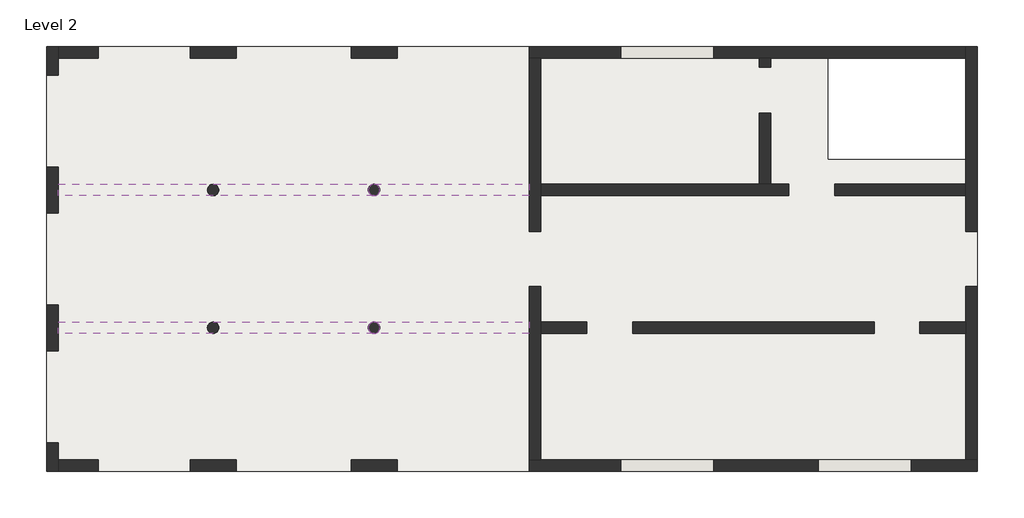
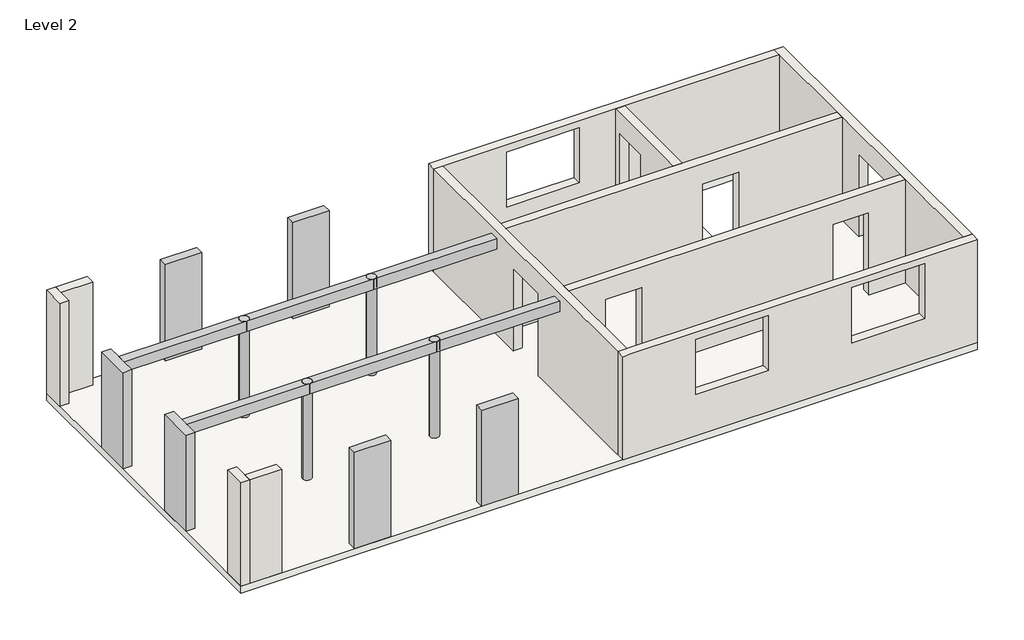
# One storey: 11 walls, 10 columns, 4 beams, 1 slab.
"""IFC4 building model written with IfcOpenShell, lengths in millimetres."""

from ifc_helpers import new_model, si_unit, point, frame, frame_2d, origin, place, context, project, spatial, polyline, circle_curve, trimmed, segment, composite_curve, outline, extrude, faceted_brep, element, save
from ifc_brep_helpers import plane_surface, cylinder_surface, revolved_surface, advanced_brep

model = new_model("IFC4")

# Units and contexts
model_context = context("Model", 3, world=origin())
ifc_project = project(units=[si_unit("LENGTHUNIT", "METRE", prefix="MILLI")], contexts=[model_context])

# Site, building, storey
site = spatial("IfcSite", under=ifc_project)
building = spatial("IfcBuilding", under=site)
storey = spatial("IfcBuildingStorey", under=building, Name="Level 2", Elevation=3000.0)

# Beams
placement = place(None, origin())
element("IfcBeam", 1, ObjectType="M_Concrete-Rectangular Beam : 25/50 cm", at=placement, inside=storey, context=model_context, shape_type="AdvancedBrep", body=[
    advanced_brep(
    [(-10243.1210397, -3913.8455619, 5500.0), (-6743.1210397, -3913.8455619, 5500.0), (-6743.1210397, -3913.8455619, 5800.0), (-13618.1210397, -3913.8455619, 5800.0), (-13618.1210397, -3913.8455619, 5500.0), (-10118.1210397, -3788.8455619, 5500.0), (-10243.1210397, -3663.8455619, 5500.0), (-6743.1210397, -3663.8455619, 5500.0), (-6868.1210397, -3788.8455619, 5500.0), (-13618.1210397, -3663.8455619, 5500.0), (-13618.1210397, -3663.8455619, 5800.0), (-6743.1210397, -3663.8455619, 5800.0), (-10118.1210397, -3788.8455619, 5800.0), (-10368.1210397, -3788.8455619, 5800.0), (-10368.1210397, -3788.8455619, 5500.0), (-6868.1210397, -3788.8455619, 5800.0)],
    [
        (0, 1),
        (1, 2),
        (2, 3),
        (3, 4),
        (4, 0),
        (5, 6, circle_curve(frame((-10243.1210397, -3788.8455619, 5500.0), z_axis=(0.0, 0.0, 1.0), x_axis=(1.0, 0.0, 0.0)), 125.0)),
        (6, 7),
        (7, 8, circle_curve(frame((-6743.1210397, -3788.8455619, 5500.0), z_axis=(0.0, 0.0, 1.0), x_axis=(1.0, 0.0, 0.0)), 125.0)),
        (8, 1, circle_curve(frame((-6743.1210397, -3788.8455619, 5500.0), z_axis=(0.0, 0.0, 1.0), x_axis=(1.0, 0.0, 0.0)), 125.0)),
        (0, 5, circle_curve(frame((-10243.1210397, -3788.8455619, 5500.0), z_axis=(0.0, 0.0, 1.0), x_axis=(1.0, 0.0, 0.0)), 125.0)),
        (6, 9),
        (9, 10),
        (10, 11),
        (11, 7),
        (5, 12),
        (12, 13, circle_curve(frame((-10243.1210397, -3788.8455619, 5800.0), z_axis=(0.0, 0.0, 1.0), x_axis=(1.0, 0.0, 0.0)), 125.0)),
        (13, 14),
        (14, 6, circle_curve(frame((-10243.1210397, -3788.8455619, 5500.0), z_axis=(0.0, 0.0, -1.0), x_axis=(1.0, 0.0, 0.0)), 125.0)),
        (0, 14, circle_curve(frame((-10243.1210397, -3788.8455619, 5500.0), z_axis=(0.0, 0.0, -1.0), x_axis=(1.0, 0.0, 0.0)), 125.0)),
        (13, 12, circle_curve(frame((-10243.1210397, -3788.8455619, 5800.0), z_axis=(0.0, 0.0, 1.0), x_axis=(1.0, 0.0, 0.0)), 125.0)),
        (11, 15, circle_curve(frame((-6743.1210397, -3788.8455619, 5800.0), z_axis=(0.0, 0.0, 1.0), x_axis=(1.0, 0.0, 0.0)), 125.0)),
        (15, 8),
        (15, 2, circle_curve(frame((-6743.1210397, -3788.8455619, 5800.0), z_axis=(0.0, 0.0, 1.0), x_axis=(1.0, 0.0, 0.0)), 125.0)),
        (9, 4),
        (3, 10),
    ],
    [
        plane_surface(frame((-6880.8210397, -3913.8455619, 6000.0), z_axis=(0.0, -1.0, 0.0), x_axis=(-1.0, 0.0, 0.0))),
        plane_surface(frame((-6880.8210397, -3913.8455619, 5500.0), z_axis=(0.0, 0.0, -1.0), x_axis=(-1.0, 0.0, 0.0))),
        plane_surface(frame((-6880.8210397, -3663.8455619, 5500.0), z_axis=(0.0, 1.0, 0.0), x_axis=(-1.0, 0.0, 0.0))),
        revolved_surface(polyline([(-10118.1210397, -3788.8455619, 5800.0), (-10118.1210397, -3788.8455619, 5500.0)]), (-10243.1210397, -3788.8455619, 3000.0), (0.0, 0.0, 1.0)),
        revolved_surface(polyline([(-6618.1210397, -3788.8455619, 5800.0), (-6618.1210397, -3788.8455619, 5500.0)]), (-6743.1210397, -3788.8455619, 3000.0), (0.0, 0.0, 1.0)),
        plane_surface(frame((-13618.1210397, -4288.8455619, 6000.0), z_axis=(-1.0, 0.0, 0.0), x_axis=(0.0, 0.0, -1.0))),
        plane_surface(frame((6381.8789603, -663.8455619, 5800.0), z_axis=(0.0, 0.0, 1.0), x_axis=(0.0, -1.0, 0.0))),
    ],
    [
        (0, [[1, 2, 3, 4, 5]]),
        (1, [[6, 7, 8, 9, -1, 10]]),
        (2, [[-7, 11, 12, 13, 14]]),
        (3, [[-6, 15, 16, 17, 18]]),
        (3, [[19, -17, 20, -15, -10]]),
        (4, [[-8, -14, 21, 22]]),
        (4, [[-9, -22, 23, -2]]),
        (5, [[24, -4, 25, -12]]),
        (6, [[-3, -23, -21, -13, -25], [-16, -20]]),
        (1, [[-19, -5, -24, -11, -18]]),
    ],
),
])
element("IfcBeam", 2, ObjectType="M_Concrete-Rectangular Beam : 25/50 cm", at=placement, inside=storey, context=model_context, shape_type="SweptSolid", body=[
    extrude(outline(composite_curve([segment(polyline([(-3913.8455619, -6743.1210397), (-3913.8455619, -3368.1210397), (-3663.8455619, -3368.1210397), (-3663.8455619, -6743.1210397)]), True, "CONTINUOUS"), segment(trimmed(circle_curve(frame_2d((-3788.8455619, -6743.1210397)), 125.0), [point((-3663.8455619, -6743.1210397))], [point((-3788.8455619, -6618.1210397))], True, "CARTESIAN"), True, "CONTINUOUS"), segment(trimmed(circle_curve(frame_2d((-3788.8455619, -6743.1210397)), 125.0), [point((-3788.8455619, -6618.1210397))], [point((-3913.8455619, -6743.1210397))], True, "CARTESIAN"), True, "CONTINUOUS")], self_intersect=False)), frame((0.0, 0.0, 5800.0), z_axis=(0.0, 0.0, -1.0), x_axis=(0.0, 1.0, 0.0)), (0.0, 0.0, 1.0), 300.0),
])
element("IfcBeam", 3, ObjectType="M_Concrete-Rectangular Beam : 25/50 cm", at=placement, inside=storey, context=model_context, shape_type="AdvancedBrep", body=[
    advanced_brep(
    [(-10243.1210397, -6913.8455619, 5500.0), (-6743.1210397, -6913.8455619, 5500.0), (-6743.1210397, -6913.8455619, 5800.0), (-13618.1210397, -6913.8455619, 5800.0), (-13618.1210397, -6913.8455619, 5500.0), (-10118.1210397, -6788.8455619, 5500.0), (-10243.1210397, -6663.8455619, 5500.0), (-6743.1210397, -6663.8455619, 5500.0), (-6868.1210397, -6788.8455619, 5500.0), (-13618.1210397, -6663.8455619, 5500.0), (-13618.1210397, -6663.8455619, 5800.0), (-6743.1210397, -6663.8455619, 5800.0), (-10118.1210397, -6788.8455619, 5800.0), (-10368.1210397, -6788.8455619, 5800.0), (-10368.1210397, -6788.8455619, 5500.0), (-6868.1210397, -6788.8455619, 5800.0)],
    [
        (0, 1),
        (1, 2),
        (2, 3),
        (3, 4),
        (4, 0),
        (5, 6, circle_curve(frame((-10243.1210397, -6788.8455619, 5500.0), z_axis=(0.0, 0.0, 1.0), x_axis=(1.0, 0.0, 0.0)), 125.0)),
        (6, 7),
        (7, 8, circle_curve(frame((-6743.1210397, -6788.8455619, 5500.0), z_axis=(0.0, 0.0, 1.0), x_axis=(1.0, 0.0, 0.0)), 125.0)),
        (8, 1, circle_curve(frame((-6743.1210397, -6788.8455619, 5500.0), z_axis=(0.0, 0.0, 1.0), x_axis=(1.0, 0.0, 0.0)), 125.0)),
        (0, 5, circle_curve(frame((-10243.1210397, -6788.8455619, 5500.0), z_axis=(0.0, 0.0, 1.0), x_axis=(1.0, 0.0, 0.0)), 125.0)),
        (6, 9),
        (9, 10),
        (10, 11),
        (11, 7),
        (5, 12),
        (12, 13, circle_curve(frame((-10243.1210397, -6788.8455619, 5800.0), z_axis=(0.0, 0.0, 1.0), x_axis=(1.0, 0.0, 0.0)), 125.0)),
        (13, 14),
        (14, 6, circle_curve(frame((-10243.1210397, -6788.8455619, 5500.0), z_axis=(0.0, 0.0, -1.0), x_axis=(1.0, 0.0, 0.0)), 125.0)),
        (0, 14, circle_curve(frame((-10243.1210397, -6788.8455619, 5500.0), z_axis=(0.0, 0.0, -1.0), x_axis=(1.0, 0.0, 0.0)), 125.0)),
        (13, 12, circle_curve(frame((-10243.1210397, -6788.8455619, 5800.0), z_axis=(0.0, 0.0, 1.0), x_axis=(1.0, 0.0, 0.0)), 125.0)),
        (11, 15, circle_curve(frame((-6743.1210397, -6788.8455619, 5800.0), z_axis=(0.0, 0.0, 1.0), x_axis=(1.0, 0.0, 0.0)), 125.0)),
        (15, 8),
        (15, 2, circle_curve(frame((-6743.1210397, -6788.8455619, 5800.0), z_axis=(0.0, 0.0, 1.0), x_axis=(1.0, 0.0, 0.0)), 125.0)),
        (9, 4),
        (3, 10),
    ],
    [
        plane_surface(frame((-6880.8210397, -6913.8455619, 6000.0), z_axis=(0.0, -1.0, 0.0), x_axis=(-1.0, 0.0, 0.0))),
        plane_surface(frame((-6880.8210397, -6913.8455619, 5500.0), z_axis=(0.0, 0.0, -1.0), x_axis=(-1.0, 0.0, 0.0))),
        plane_surface(frame((-6880.8210397, -6663.8455619, 5500.0), z_axis=(0.0, 1.0, 0.0), x_axis=(-1.0, 0.0, 0.0))),
        revolved_surface(polyline([(-10118.1210397, -6788.8455619, 5800.0), (-10118.1210397, -6788.8455619, 5500.0)]), (-10243.1210397, -6788.8455619, 3000.0), (0.0, 0.0, 1.0)),
        revolved_surface(polyline([(-6618.1210397, -6788.8455619, 5800.0), (-6618.1210397, -6788.8455619, 5500.0)]), (-6743.1210397, -6788.8455619, 3000.0), (0.0, 0.0, 1.0)),
        plane_surface(frame((-13618.1210397, -7288.8455619, 6000.0), z_axis=(-1.0, 0.0, 0.0), x_axis=(0.0, 0.0, -1.0))),
        plane_surface(frame((6381.8789603, -663.8455619, 5800.0), z_axis=(0.0, 0.0, 1.0), x_axis=(0.0, -1.0, 0.0))),
    ],
    [
        (0, [[1, 2, 3, 4, 5]]),
        (1, [[6, 7, 8, 9, -1, 10]]),
        (2, [[-7, 11, 12, 13, 14]]),
        (3, [[-6, 15, 16, 17, 18]]),
        (3, [[19, -17, 20, -15, -10]]),
        (4, [[-8, -14, 21, 22]]),
        (4, [[-9, -22, 23, -2]]),
        (5, [[24, -4, 25, -12]]),
        (6, [[-3, -23, -21, -13, -25], [-16, -20]]),
        (1, [[-19, -5, -24, -11, -18]]),
    ],
),
])
element("IfcBeam", 4, ObjectType="M_Concrete-Rectangular Beam : 25/50 cm", at=placement, inside=storey, context=model_context, shape_type="SweptSolid", body=[
    extrude(outline(composite_curve([segment(polyline([(-3368.1210397, -6663.8455619), (-3368.1210397, -6913.8455619), (-6743.1210397, -6913.8455619)]), True, "CONTINUOUS"), segment(trimmed(circle_curve(frame_2d((-6743.1210397, -6788.8455619)), 125.0), [point((-6743.1210397, -6913.8455619))], [point((-6618.1210397, -6788.8455619))], True, "CARTESIAN"), True, "CONTINUOUS"), segment(trimmed(circle_curve(frame_2d((-6743.1210397, -6788.8455619)), 125.0), [point((-6618.1210397, -6788.8455619))], [point((-6743.1210397, -6663.8455619))], True, "CARTESIAN"), True, "CONTINUOUS"), segment(polyline([(-6743.1210397, -6663.8455619), (-3368.1210397, -6663.8455619)]), True, "CONTINUOUS")], self_intersect=False)), frame((0.0, 0.0, 5500.0), z_axis=(0.0, 0.0, 1.0), x_axis=(1.0, 0.0, 0.0)), (0.0, 0.0, 1.0), 300.0),
])

# Columns
element("IfcColumn", 5, ObjectType="Concrete Round : 25 cm", at=placement, inside=storey, context=model_context, shape_type="SweptSolid", body=[
    extrude(outline(composite_curve([segment(trimmed(circle_curve(frame_2d((-10243.1210397, -3788.8455619)), 125.0), [point((-10368.1210397, -3788.8455619))], [point((-10118.1210397, -3788.8455619))], False, "CARTESIAN"), True, "CONTINUOUS"), segment(trimmed(circle_curve(frame_2d((-10243.1210397, -3788.8455619)), 125.0), [point((-10118.1210397, -3788.8455619))], [point((-10368.1210397, -3788.8455619))], False, "CARTESIAN"), True, "CONTINUOUS")], self_intersect=False)), frame((0.0, 0.0, 3000.0), z_axis=(0.0, 0.0, 1.0), x_axis=(1.0, 0.0, 0.0)), (0.0, 0.0, 1.0), 2800.0),
])
element("IfcColumn", 6, ObjectType="Concrete Round : 25 cm", at=placement, inside=storey, context=model_context, shape_type="AdvancedBrep", body=[
    advanced_brep(
    [(-6868.1210397, -3788.8455619, 3000.0), (-6618.1210397, -3788.8455619, 3000.0), (-6868.1210397, -3788.8455619, 5800.0), (-6743.1210397, -3663.8455619, 5800.0), (-6618.1210397, -3788.8455619, 5800.0), (-6743.1210397, -3913.8455619, 5800.0)],
    [
        (0, 1, circle_curve(frame((-6743.1210397, -3788.8455619, 3000.0), z_axis=(0.0, 0.0, -1.0), x_axis=(1.0, 0.0, 0.0)), 125.0)),
        (1, 0, circle_curve(frame((-6743.1210397, -3788.8455619, 3000.0), z_axis=(0.0, 0.0, -1.0), x_axis=(1.0, 0.0, 0.0)), 125.0)),
        (0, 2),
        (2, 3, circle_curve(frame((-6743.1210397, -3788.8455619, 5800.0), z_axis=(0.0, 0.0, -1.0), x_axis=(1.0, 0.0, 0.0)), 125.0)),
        (3, 4, circle_curve(frame((-6743.1210397, -3788.8455619, 5800.0), z_axis=(0.0, 0.0, -1.0), x_axis=(1.0, 0.0, 0.0)), 125.0)),
        (4, 1),
        (4, 5, circle_curve(frame((-6743.1210397, -3788.8455619, 5800.0), z_axis=(0.0, 0.0, -1.0), x_axis=(1.0, 0.0, 0.0)), 125.0)),
        (5, 2, circle_curve(frame((-6743.1210397, -3788.8455619, 5800.0), z_axis=(0.0, 0.0, -1.0), x_axis=(1.0, 0.0, 0.0)), 125.0)),
    ],
    [
        plane_surface(frame((-6618.1210397, -3788.8455619, 3000.0), z_axis=(0.0, 0.0, -1.0), x_axis=(0.0, -1.0, 0.0))),
        cylinder_surface(frame((-6743.1210397, -3788.8455619, 3000.0), z_axis=(0.0, 0.0, 1.0), x_axis=(1.0, 0.0, 0.0)), 125.0),
        plane_surface(frame((6381.8789603, -663.8455619, 5800.0), z_axis=(0.0, 0.0, 1.0), x_axis=(0.0, -1.0, 0.0))),
    ],
    [
        (0, [[1, 2]]),
        (1, [[-1, 3, 4, 5, 6]]),
        (1, [[-2, -6, 7, 8, -3]]),
        (2, [[-5, -4, -8, -7]]),
    ],
),
])
element("IfcColumn", 7, ObjectType="Concrete Round : 25 cm", at=placement, inside=storey, context=model_context, shape_type="SweptSolid", body=[
    extrude(outline(composite_curve([segment(trimmed(circle_curve(frame_2d((-10243.1210397, -6788.8455619)), 125.0), [point((-10368.1210397, -6788.8455619))], [point((-10118.1210397, -6788.8455619))], False, "CARTESIAN"), True, "CONTINUOUS"), segment(trimmed(circle_curve(frame_2d((-10243.1210397, -6788.8455619)), 125.0), [point((-10118.1210397, -6788.8455619))], [point((-10368.1210397, -6788.8455619))], False, "CARTESIAN"), True, "CONTINUOUS")], self_intersect=False)), frame((0.0, 0.0, 3000.0), z_axis=(0.0, 0.0, 1.0), x_axis=(1.0, 0.0, 0.0)), (0.0, 0.0, 1.0), 2800.0),
])
element("IfcColumn", 8, ObjectType="Concrete Round : 25 cm", at=placement, inside=storey, context=model_context, shape_type="AdvancedBrep", body=[
    advanced_brep(
    [(-6868.1210397, -6788.8455619, 3000.0), (-6618.1210397, -6788.8455619, 3000.0), (-6868.1210397, -6788.8455619, 5800.0), (-6743.1210397, -6663.8455619, 5800.0), (-6618.1210397, -6788.8455619, 5800.0), (-6743.1210397, -6913.8455619, 5800.0)],
    [
        (0, 1, circle_curve(frame((-6743.1210397, -6788.8455619, 3000.0), z_axis=(0.0, 0.0, -1.0), x_axis=(1.0, 0.0, 0.0)), 125.0)),
        (1, 0, circle_curve(frame((-6743.1210397, -6788.8455619, 3000.0), z_axis=(0.0, 0.0, -1.0), x_axis=(1.0, 0.0, 0.0)), 125.0)),
        (0, 2),
        (2, 3, circle_curve(frame((-6743.1210397, -6788.8455619, 5800.0), z_axis=(0.0, 0.0, -1.0), x_axis=(1.0, 0.0, 0.0)), 125.0)),
        (3, 4, circle_curve(frame((-6743.1210397, -6788.8455619, 5800.0), z_axis=(0.0, 0.0, -1.0), x_axis=(1.0, 0.0, 0.0)), 125.0)),
        (4, 1),
        (4, 5, circle_curve(frame((-6743.1210397, -6788.8455619, 5800.0), z_axis=(0.0, 0.0, -1.0), x_axis=(1.0, 0.0, 0.0)), 125.0)),
        (5, 2, circle_curve(frame((-6743.1210397, -6788.8455619, 5800.0), z_axis=(0.0, 0.0, -1.0), x_axis=(1.0, 0.0, 0.0)), 125.0)),
    ],
    [
        plane_surface(frame((-6618.1210397, -6788.8455619, 3000.0), z_axis=(0.0, 0.0, -1.0), x_axis=(0.0, -1.0, 0.0))),
        cylinder_surface(frame((-6743.1210397, -6788.8455619, 3000.0), z_axis=(0.0, 0.0, 1.0), x_axis=(1.0, 0.0, 0.0)), 125.0),
        plane_surface(frame((6381.8789603, -663.8455619, 5800.0), z_axis=(0.0, 0.0, 1.0), x_axis=(0.0, -1.0, 0.0))),
    ],
    [
        (0, [[1, 2]]),
        (1, [[-1, 3, 4, 5, 6]]),
        (1, [[-2, -6, 7, 8, -3]]),
        (2, [[-5, -4, -8, -7]]),
    ],
),
])
element("IfcColumn", 9, ObjectType="M_Concrete-Rectangular-Column : 25 x 100", at=placement, inside=storey, context=model_context, shape_type="SweptSolid", body=[
    extrude(outline(polyline([(-10743.1210397, -663.8455619), (-9743.1210397, -663.8455619), (-9743.1210397, -913.8455619), (-10743.1210397, -913.8455619), (-10743.1210397, -663.8455619)])), frame((0.0, 0.0, 3000.0), z_axis=(0.0, 0.0, 1.0), x_axis=(1.0, 0.0, 0.0)), (0.0, 0.0, 1.0), 2800.0),
])
element("IfcColumn", 10, ObjectType="M_Concrete-Rectangular-Column : 25 x 100", at=placement, inside=storey, context=model_context, shape_type="SweptSolid", body=[
    extrude(outline(polyline([(-7243.1210397, -663.8455619), (-6243.1210397, -663.8455619), (-6243.1210397, -913.8455619), (-7243.1210397, -913.8455619), (-7243.1210397, -663.8455619)])), frame((0.0, 0.0, 3000.0), z_axis=(0.0, 0.0, 1.0), x_axis=(1.0, 0.0, 0.0)), (0.0, 0.0, 1.0), 2800.0),
])
element("IfcColumn", 11, ObjectType="M_Concrete-Rectangular-Column : 25 x 100", at=placement, inside=storey, context=model_context, shape_type="SweptSolid", body=[
    extrude(outline(polyline([(-10743.1210397, -9663.8455619), (-9743.1210397, -9663.8455619), (-9743.1210397, -9913.8455619), (-10743.1210397, -9913.8455619), (-10743.1210397, -9663.8455619)])), frame((0.0, 0.0, 3000.0), z_axis=(0.0, 0.0, 1.0), x_axis=(1.0, 0.0, 0.0)), (0.0, 0.0, 1.0), 2800.0),
])
element("IfcColumn", 12, ObjectType="M_Concrete-Rectangular-Column : 25 x 100", at=placement, inside=storey, context=model_context, shape_type="SweptSolid", body=[
    extrude(outline(polyline([(-7243.1210397, -9663.8455619), (-6243.1210397, -9663.8455619), (-6243.1210397, -9913.8455619), (-7243.1210397, -9913.8455619), (-7243.1210397, -9663.8455619)])), frame((0.0, 0.0, 3000.0), z_axis=(0.0, 0.0, 1.0), x_axis=(1.0, 0.0, 0.0)), (0.0, 0.0, 1.0), 2800.0),
])
element("IfcColumn", 13, ObjectType="M_Concrete-Rectangular-Column : 25 x 100", at=placement, inside=storey, context=model_context, shape_type="Brep", body=[
    faceted_brep([(-13618.1210397, -3288.8455619, 3000.0), (-13618.1210397, -4288.8455619, 3000.0), (-13868.1210397, -4288.8455619, 3000.0), (-13868.1210397, -3288.8455619, 3000.0), (-13618.1210397, -3288.8455619, 5800.0), (-13618.1210397, -3663.8455619, 5800.0), (-13618.1210397, -3913.8455619, 5800.0), (-13618.1210397, -4288.8455619, 5800.0), (-13868.1210397, -4288.8455619, 5800.0), (-13868.1210397, -3288.8455619, 5800.0)], [[[0, 1, 2, 3]], [[1, 0, 4, 5, 6, 7]], [[2, 1, 7, 8]], [[3, 2, 8, 9]], [[0, 3, 9, 4]], [[7, 6, 5, 4, 9, 8]]]),
])
element("IfcColumn", 14, ObjectType="M_Concrete-Rectangular-Column : 25 x 100", at=placement, inside=storey, context=model_context, shape_type="Brep", body=[
    faceted_brep([(-13618.1210397, -6288.8455619, 3000.0), (-13618.1210397, -7288.8455619, 3000.0), (-13868.1210397, -7288.8455619, 3000.0), (-13868.1210397, -6288.8455619, 3000.0), (-13618.1210397, -6288.8455619, 5800.0), (-13618.1210397, -6663.8455619, 5800.0), (-13618.1210397, -6913.8455619, 5800.0), (-13618.1210397, -7288.8455619, 5800.0), (-13868.1210397, -7288.8455619, 5800.0), (-13868.1210397, -6288.8455619, 5800.0)], [[[0, 1, 2, 3]], [[1, 0, 4, 5, 6, 7]], [[2, 1, 7, 8]], [[3, 2, 8, 9]], [[0, 3, 9, 4]], [[7, 6, 5, 4, 9, 8]]]),
])

# Slab
element("IfcSlab", 15, ObjectType="Concrete Slab 20 cm", at=placement, inside=storey, context=model_context, shape_type="Brep", body=[
    faceted_brep([(6381.8789603, -663.8455619, 2800.0), (6381.8789603, -9913.8455619, 2800.0), (-6243.1210397, -9913.8455619, 2800.0), (-7243.1210397, -9913.8455619, 2800.0), (-9743.1210397, -9913.8455619, 2800.0), (-10743.1210397, -9913.8455619, 2800.0), (-13868.1210397, -9913.8455619, 2800.0), (-13868.1210397, -7288.8455619, 2800.0), (-13868.1210397, -6288.8455619, 2800.0), (-13868.1210397, -4288.8455619, 2800.0), (-13868.1210397, -3288.8455619, 2800.0), (-13868.1210397, -663.8455619, 2800.0), (-10743.1210397, -663.8455619, 2800.0), (-9743.1210397, -663.8455619, 2800.0), (-7243.1210397, -663.8455619, 2800.0), (-6243.1210397, -663.8455619, 2800.0), (3131.8789603, -913.8455619, 2800.0), (3131.8789603, -3113.8455619, 2800.0), (6131.8789603, -3113.8455619, 2800.0), (6131.8789603, -913.8455619, 2800.0), (6381.8789603, -9913.8455619, 3000.0), (6381.8789603, -663.8455619, 3000.0), (-6243.1210397, -663.8455619, 3000.0), (-7243.1210397, -663.8455619, 3000.0), (-9743.1210397, -663.8455619, 3000.0), (-10743.1210397, -663.8455619, 3000.0), (-13868.1210397, -663.8455619, 3000.0), (-13868.1210397, -3288.8455619, 3000.0), (-13868.1210397, -4288.8455619, 3000.0), (-13868.1210397, -6288.8455619, 3000.0), (-13868.1210397, -7288.8455619, 3000.0), (-13868.1210397, -9913.8455619, 3000.0), (-10743.1210397, -9913.8455619, 3000.0), (-9743.1210397, -9913.8455619, 3000.0), (-7243.1210397, -9913.8455619, 3000.0), (-6243.1210397, -9913.8455619, 3000.0), (3131.8789603, -3113.8455619, 3000.0), (3131.8789603, -913.8455619, 3000.0), (6131.8789603, -913.8455619, 3000.0), (6131.8789603, -3113.8455619, 3000.0)], [[[0, 1, 2, 3, 4, 5, 6, 7, 8, 9, 10, 11, 12, 13, 14, 15], [16, 17, 18, 19]], [[20, 21, 22, 23, 24, 25, 26, 27, 28, 29, 30, 31, 32, 33, 34, 35], [36, 37, 38, 39]], [[1, 0, 21, 20]], [[6, 5, 4, 3, 2, 1, 20, 35, 34, 33, 32, 31]], [[11, 10, 9, 8, 7, 6, 31, 30, 29, 28, 27, 26]], [[0, 15, 14, 13, 12, 11, 26, 25, 24, 23, 22, 21]], [[16, 37, 36, 17]], [[17, 36, 39, 18]], [[18, 39, 38, 19]], [[37, 16, 19, 38]]]),
])

# Walls
element("IfcWall", 16, ObjectType="Concrete 25 cm", at=placement, inside=storey, context=model_context, shape_type="Brep", body=[
    faceted_brep([(-13618.1210397, -1288.8455619, 3000.0), (-13618.1210397, -913.8455619, 3000.0), (-13618.1210397, -663.8455619, 3000.0), (-13618.1210397, -663.8455619, 6000.0), (-13618.1210397, -913.8455619, 6000.0), (-13618.1210397, -1288.8455619, 6000.0), (-13868.1210397, -1288.8455619, 3000.0), (-13868.1210397, -1288.8455619, 6000.0), (-13868.1210397, -663.8455619, 6000.0), (-13868.1210397, -663.8455619, 3000.0)], [[[0, 1, 2, 3, 4, 5]], [[6, 7, 8, 9]], [[2, 1, 0, 6, 9]], [[5, 4, 3, 8, 7]], [[0, 5, 7, 6]], [[3, 2, 9, 8]]]),
])
element("IfcWall", 17, ObjectType="Concrete 25 cm", at=placement, inside=storey, context=model_context, shape_type="SweptSolid", body=[
    extrude(outline(polyline([(-12743.1210397, -913.8455619), (-13618.1210397, -913.8455619), (-13618.1210397, -663.8455619), (-12743.1210397, -663.8455619), (-12743.1210397, -913.8455619)])), frame((0.0, 0.0, 3000.0), z_axis=(0.0, 0.0, 1.0), x_axis=(1.0, 0.0, 0.0)), (0.0, 0.0, 1.0), 3000.0),
])
element("IfcWall", 18, ObjectType="Concrete 25 cm", at=placement, inside=storey, context=model_context, shape_type="Brep", body=[
    faceted_brep([(-13868.1210397, -9288.8455619, 3000.0), (-13868.1210397, -9913.8455619, 3000.0), (-13868.1210397, -9913.8455619, 6000.0), (-13868.1210397, -9288.8455619, 6000.0), (-13618.1210397, -9288.8455619, 3000.0), (-13618.1210397, -9288.8455619, 6000.0), (-13618.1210397, -9663.8455619, 6000.0), (-13618.1210397, -9913.8455619, 6000.0), (-13618.1210397, -9913.8455619, 3000.0), (-13618.1210397, -9663.8455619, 3000.0)], [[[0, 1, 2, 3]], [[4, 5, 6, 7, 8, 9]], [[1, 0, 4, 9, 8]], [[3, 2, 7, 6, 5]], [[0, 3, 5, 4]], [[2, 1, 8, 7]]]),
])
element("IfcWall", 19, ObjectType="Concrete 25 cm", at=placement, inside=storey, context=model_context, shape_type="SweptSolid", body=[
    extrude(outline(polyline([(-12743.1210397, -9913.8455619), (-13618.1210397, -9913.8455619), (-13618.1210397, -9663.8455619), (-12743.1210397, -9663.8455619), (-12743.1210397, -9913.8455619)])), frame((0.0, 0.0, 3000.0), z_axis=(0.0, 0.0, 1.0), x_axis=(1.0, 0.0, 0.0)), (0.0, 0.0, 1.0), 3000.0),
])
element("IfcWall", 20, ObjectType="Concrete 25 cm", at=placement, inside=storey, context=model_context, shape_type="Brep", body=[
    faceted_brep([(-3368.1210397, -9913.8455619, 3000.0), (6381.8789603, -9913.8455619, 3000.0), (6381.8789603, -9913.8455619, 6000.0), (-3118.1210397, -9913.8455619, 6000.0), (-3368.1210397, -9913.8455619, 6000.0), (631.8789603, -9913.8455619, 5800.0), (631.8789603, -9913.8455619, 4200.0), (-1368.1210397, -9913.8455619, 4200.0), (-1368.1210397, -9913.8455619, 5800.0), (4931.8789603, -9913.8455619, 5800.0), (4931.8789603, -9913.8455619, 4200.0), (2931.8789603, -9913.8455619, 4200.0), (2931.8789603, -9913.8455619, 5800.0), (-3368.1210397, -9663.8455619, 3000.0), (-3368.1210397, -9663.8455619, 6000.0), (-3118.1210397, -9663.8455619, 6000.0), (6131.8789603, -9663.8455619, 6000.0), (6381.8789603, -9663.8455619, 6000.0), (6381.8789603, -9663.8455619, 3000.0), (6131.8789603, -9663.8455619, 3000.0), (-3118.1210397, -9663.8455619, 3000.0), (631.8789603, -9663.8455619, 5800.0), (-1368.1210397, -9663.8455619, 5800.0), (-1368.1210397, -9663.8455619, 4200.0), (631.8789603, -9663.8455619, 4200.0), (4931.8789603, -9663.8455619, 5800.0), (2931.8789603, -9663.8455619, 5800.0), (2931.8789603, -9663.8455619, 4200.0), (4931.8789603, -9663.8455619, 4200.0)], [[[0, 1, 2, 3, 4], [5, 6, 7, 8], [9, 10, 11, 12]], [[13, 14, 15, 16, 17, 18, 19, 20], [21, 22, 23, 24], [25, 26, 27, 28]], [[1, 0, 13, 20, 19, 18]], [[4, 3, 2, 17, 16, 15, 14]], [[2, 1, 18, 17]], [[0, 4, 14, 13]], [[6, 5, 21, 24]], [[7, 6, 24, 23]], [[8, 7, 23, 22]], [[5, 8, 22, 21]], [[10, 9, 25, 28]], [[11, 10, 28, 27]], [[12, 11, 27, 26]], [[9, 12, 26, 25]]]),
])
element("IfcWall", 21, ObjectType="Concrete 25 cm", at=placement, inside=storey, context=model_context, shape_type="Brep", body=[
    faceted_brep([(6381.8789603, -9663.8455619, 3000.0), (6381.8789603, -5888.8455619, 3000.0), (6381.8789603, -5888.8455619, 5400.0), (6381.8789603, -4688.8455619, 5400.0), (6381.8789603, -4688.8455619, 3000.0), (6381.8789603, -663.8455619, 3000.0), (6381.8789603, -663.8455619, 6000.0), (6381.8789603, -9663.8455619, 6000.0), (6131.8789603, -5888.8455619, 5400.0), (6131.8789603, -5888.8455619, 3000.0), (6131.8789603, -6663.8455619, 3000.0), (6131.8789603, -6913.8455619, 3000.0), (6131.8789603, -9663.8455619, 3000.0), (6131.8789603, -9663.8455619, 6000.0), (6131.8789603, -6913.8455619, 6000.0), (6131.8789603, -6663.8455619, 6000.0), (6131.8789603, -3913.8455619, 6000.0), (6131.8789603, -3663.8455619, 6000.0), (6131.8789603, -913.8455619, 6000.0), (6131.8789603, -663.8455619, 6000.0), (6131.8789603, -663.8455619, 3000.0), (6131.8789603, -913.8455619, 3000.0), (6131.8789603, -3663.8455619, 3000.0), (6131.8789603, -3913.8455619, 3000.0), (6131.8789603, -4688.8455619, 3000.0), (6131.8789603, -4688.8455619, 5400.0)], [[[0, 1, 2, 3, 4, 5, 6, 7]], [[8, 9, 10, 11, 12, 13, 14, 15, 16, 17, 18, 19, 20, 21, 22, 23, 24, 25]], [[24, 23, 22, 21, 20, 5, 4]], [[12, 11, 10, 9, 1, 0]], [[7, 6, 19, 18, 17, 16, 15, 14, 13]], [[0, 7, 13, 12]], [[6, 5, 20, 19]], [[4, 3, 25, 24]], [[2, 1, 9, 8]], [[3, 2, 8, 25]]]),
])
element("IfcWall", 22, ObjectType="Concrete 25 cm", at=placement, inside=storey, context=model_context, shape_type="Brep", body=[
    faceted_brep([(6131.8789603, -663.8455619, 3000.0), (-3368.1210397, -663.8455619, 3000.0), (-3368.1210397, -663.8455619, 6000.0), (-3118.1210397, -663.8455619, 6000.0), (6131.8789603, -663.8455619, 6000.0), (631.8789603, -663.8455619, 5800.0), (-1368.1210397, -663.8455619, 5800.0), (-1368.1210397, -663.8455619, 4200.0), (631.8789603, -663.8455619, 4200.0), (6131.8789603, -913.8455619, 3000.0), (6131.8789603, -913.8455619, 6000.0), (1881.8789603, -913.8455619, 6000.0), (1631.8789603, -913.8455619, 6000.0), (-3118.1210397, -913.8455619, 6000.0), (-3368.1210397, -913.8455619, 6000.0), (-3368.1210397, -913.8455619, 3000.0), (-3118.1210397, -913.8455619, 3000.0), (1631.8789603, -913.8455619, 3000.0), (1881.8789603, -913.8455619, 3000.0), (631.8789603, -913.8455619, 5800.0), (631.8789603, -913.8455619, 4200.0), (-1368.1210397, -913.8455619, 4200.0), (-1368.1210397, -913.8455619, 5800.0)], [[[0, 1, 2, 3, 4], [5, 6, 7, 8]], [[9, 10, 11, 12, 13, 14, 15, 16, 17, 18], [19, 20, 21, 22]], [[1, 0, 9, 18, 17, 16, 15]], [[4, 3, 2, 14, 13, 12, 11, 10]], [[0, 4, 10, 9]], [[2, 1, 15, 14]], [[20, 19, 5, 8]], [[21, 20, 8, 7]], [[22, 21, 7, 6]], [[19, 22, 6, 5]]]),
])
element("IfcWall", 23, ObjectType="Concrete 25 cm", at=placement, inside=storey, context=model_context, shape_type="Brep", body=[
    faceted_brep([(-3368.1210397, -5888.8455619, 5400.0), (-3368.1210397, -5888.8455619, 3000.0), (-3368.1210397, -9663.8455619, 3000.0), (-3368.1210397, -9663.8455619, 6000.0), (-3368.1210397, -913.8455619, 6000.0), (-3368.1210397, -913.8455619, 3000.0), (-3368.1210397, -4688.8455619, 3000.0), (-3368.1210397, -4688.8455619, 5400.0), (-3118.1210397, -9663.8455619, 3000.0), (-3118.1210397, -6913.8455619, 3000.0), (-3118.1210397, -6663.8455619, 3000.0), (-3118.1210397, -5888.8455619, 3000.0), (-3118.1210397, -5888.8455619, 5400.0), (-3118.1210397, -4688.8455619, 5400.0), (-3118.1210397, -4688.8455619, 3000.0), (-3118.1210397, -3913.8455619, 3000.0), (-3118.1210397, -3663.8455619, 3000.0), (-3118.1210397, -913.8455619, 3000.0), (-3118.1210397, -913.8455619, 6000.0), (-3118.1210397, -3663.8455619, 6000.0), (-3118.1210397, -3913.8455619, 6000.0), (-3118.1210397, -6663.8455619, 6000.0), (-3118.1210397, -6913.8455619, 6000.0), (-3118.1210397, -9663.8455619, 6000.0)], [[[0, 1, 2, 3, 4, 5, 6, 7]], [[8, 9, 10, 11, 12, 13, 14, 15, 16, 17, 18, 19, 20, 21, 22, 23]], [[6, 5, 17, 16, 15, 14]], [[2, 1, 11, 10, 9, 8]], [[4, 3, 23, 22, 21, 20, 19, 18]], [[3, 2, 8, 23]], [[5, 4, 18, 17]], [[14, 13, 7, 6]], [[12, 11, 1, 0]], [[13, 12, 0, 7]]]),
])
element("IfcWall", 24, ObjectType="Concrete 25 cm", at=placement, inside=storey, context=model_context, shape_type="Brep", body=[
    faceted_brep([(-3118.1210397, -3913.8455619, 3000.0), (2281.8789603, -3913.8455619, 3000.0), (2281.8789603, -3913.8455619, 5400.0), (3281.8789603, -3913.8455619, 5400.0), (3281.8789603, -3913.8455619, 3000.0), (6131.8789603, -3913.8455619, 3000.0), (6131.8789603, -3913.8455619, 6000.0), (1881.8789603, -3913.8455619, 6000.0), (1631.8789603, -3913.8455619, 6000.0), (-3118.1210397, -3913.8455619, 6000.0), (2281.8789603, -3663.8455619, 5400.0), (2281.8789603, -3663.8455619, 3000.0), (1881.8789603, -3663.8455619, 3000.0), (1631.8789603, -3663.8455619, 3000.0), (-3118.1210397, -3663.8455619, 3000.0), (-3118.1210397, -3663.8455619, 6000.0), (1631.8789603, -3663.8455619, 6000.0), (1881.8789603, -3663.8455619, 6000.0), (6131.8789603, -3663.8455619, 6000.0), (6131.8789603, -3663.8455619, 3000.0), (3281.8789603, -3663.8455619, 3000.0), (3281.8789603, -3663.8455619, 5400.0)], [[[0, 1, 2, 3, 4, 5, 6, 7, 8, 9]], [[10, 11, 12, 13, 14, 15, 16, 17, 18, 19, 20, 21]], [[20, 19, 5, 4]], [[14, 13, 12, 11, 1, 0]], [[9, 8, 7, 6, 18, 17, 16, 15]], [[6, 5, 19, 18]], [[0, 9, 15, 14]], [[4, 3, 21, 20]], [[2, 1, 11, 10]], [[3, 2, 10, 21]]]),
])
element("IfcWall", 25, ObjectType="Concrete 25 cm", at=placement, inside=storey, context=model_context, shape_type="Brep", body=[
    faceted_brep([(-1118.1210397, -6913.8455619, 3000.0), (4131.8789603, -6913.8455619, 3000.0), (4131.8789603, -6913.8455619, 5400.0), (5131.8789603, -6913.8455619, 5400.0), (5131.8789603, -6913.8455619, 3000.0), (6131.8789603, -6913.8455619, 3000.0), (6131.8789603, -6913.8455619, 6000.0), (1881.8789603, -6913.8455619, 6000.0), (1631.8789603, -6913.8455619, 6000.0), (-3118.1210397, -6913.8455619, 6000.0), (-3118.1210397, -6913.8455619, 3000.0), (-2118.1210397, -6913.8455619, 3000.0), (-2118.1210397, -6913.8455619, 5400.0), (-1118.1210397, -6913.8455619, 5400.0), (4131.8789603, -6663.8455619, 5400.0), (4131.8789603, -6663.8455619, 3000.0), (-1118.1210397, -6663.8455619, 3000.0), (-1118.1210397, -6663.8455619, 5400.0), (-2118.1210397, -6663.8455619, 5400.0), (-2118.1210397, -6663.8455619, 3000.0), (-3118.1210397, -6663.8455619, 3000.0), (-3118.1210397, -6663.8455619, 6000.0), (1631.8789603, -6663.8455619, 6000.0), (1881.8789603, -6663.8455619, 6000.0), (6131.8789603, -6663.8455619, 6000.0), (6131.8789603, -6663.8455619, 3000.0), (5131.8789603, -6663.8455619, 3000.0), (5131.8789603, -6663.8455619, 5400.0)], [[[0, 1, 2, 3, 4, 5, 6, 7, 8, 9, 10, 11, 12, 13]], [[14, 15, 16, 17, 18, 19, 20, 21, 22, 23, 24, 25, 26, 27]], [[20, 19, 11, 10]], [[26, 25, 5, 4]], [[16, 15, 1, 0]], [[9, 8, 7, 6, 24, 23, 22, 21]], [[6, 5, 25, 24]], [[10, 9, 21, 20]], [[0, 13, 17, 16]], [[12, 11, 19, 18]], [[13, 12, 18, 17]], [[4, 3, 27, 26]], [[2, 1, 15, 14]], [[3, 2, 14, 27]]]),
])
element("IfcWall", 26, ObjectType="Concrete 25 cm", at=placement, inside=storey, context=model_context, shape_type="SweptSolid", body=[
    extrude(outline(polyline([(-913.8455619, 3000.0), (-1113.8455619, 3000.0), (-1113.8455619, 5400.0), (-2113.8455619, 5400.0), (-2113.8455619, 3000.0), (-3663.8455619, 3000.0), (-3663.8455619, 6000.0), (-913.8455619, 6000.0), (-913.8455619, 3000.0)])), frame((1631.8789603, 0.0, 0.0), z_axis=(1.0, 0.0, 0.0), x_axis=(0.0, 1.0, 0.0)), (0.0, 0.0, 1.0), 250.0),
])

save(model, "model.ifc")
